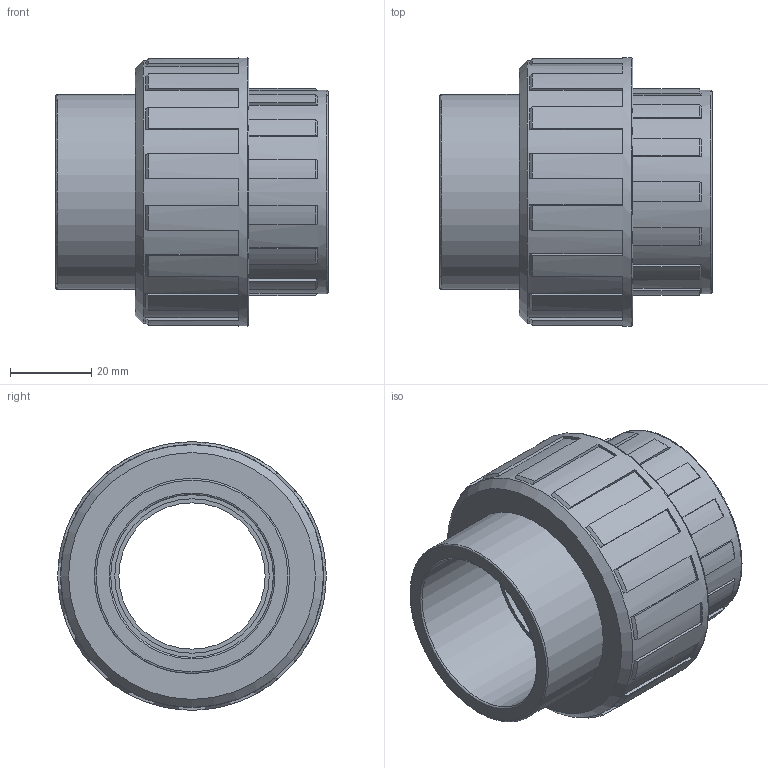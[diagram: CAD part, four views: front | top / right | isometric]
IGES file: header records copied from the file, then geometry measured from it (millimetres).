
Global section: file name: 050800040.ipt; native system: Autodesk Inventor 2015; preprocessor: unknown; author: Кирилл,,11,0; organization: 20171003.032032; date: 20171207.164906; units: millimetre
Bounding box: 67 x 66 x 66 mm (x, y, z)
Volume: 86880.9 mm3; surface area: 25142.7 mm2
Topology: 1 solids, 1 shells, 141 faces, 414 edges, 280 vertices
Faces by surface type: plane 83, cone 31, cylinder 18, revolution 9
Full cylindrical faces by diameter (mm): 48 x1, 50 x1, 64.68 x1, 66 x1
